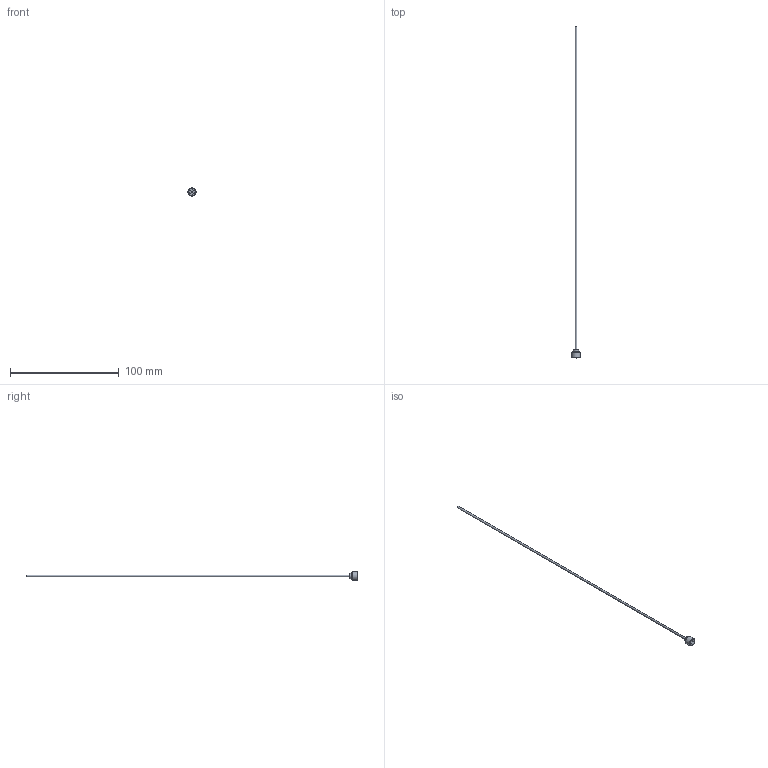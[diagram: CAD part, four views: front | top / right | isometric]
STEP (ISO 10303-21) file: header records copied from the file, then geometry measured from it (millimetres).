
FILE_DESCRIPTION(/* description */ (''),/* implementation_level */ '2;1');
FILE_NAME(/* name */ 'C:/Users/drich/Desktop/PT16-072-12 v1.step',/* time_stamp */ '2019-12-27T15:13:26-06:00',/* author */ (''),/* organization */ (''),/* preprocessor_version */ 'ST-DEVELOPER v18',/* originating_system */ 'Autodesk Translation Framework v8.12.0.6',/* authorisation */ '');
FILE_SCHEMA (('AUTOMOTIVE_DESIGN { 1 0 10303 214 3 1 1 }'));
Length unit declared in the file: inch
Products named in the file (1): PT16-072-12
Bounding box: 7.62 x 304.8 x 7.62 mm (x, y, z)
Volume: 476.8 mm3; surface area: 3437.1 mm2
Topology: 1 solids, 1 shells, 19 faces, 48 edges, 34 vertices
Faces by surface type: plane 11, cylinder 4, torus 2, cone 2
Full cylindrical faces by diameter (mm): 1.524 x1, 1.829 x1, 4.724 x1, 7.616 x1
Entity records: 633 total; most frequent: DIRECTION 112, CARTESIAN_POINT 102, ORIENTED_EDGE 96, EDGE_CURVE 48, AXIS2_PLACEMENT_3D 44, VERTEX_POINT 34, CIRCLE 24, EDGE_LOOP 24
